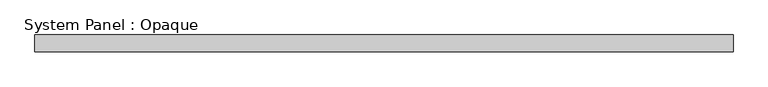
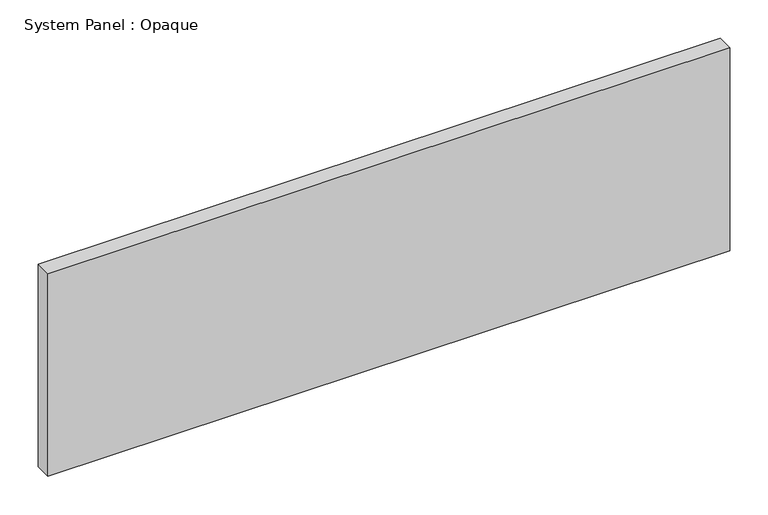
"""IFC4 building model written with IfcOpenShell, lengths in millimetres: plate geometry, System Panel : Opaque."""

from ifc_helpers import new_model, si_unit, origin, origin_with_axes, place, context, project, spatial, polyline, outline, extrude, source, transform, mapped, element, save


def system_panel_opaque_81517e9a(model_context):
    return source(origin(), model_context, "Body", "SweptSolid", [
        extrude(outline(polyline([(516.726465, -12.5), (-516.726465, -12.5), (-516.726465, 12.5), (516.726465, 12.5), (516.726465, -12.5)])), origin_with_axes(), (0.0, 0.0, 1.0), 325.0),
    ])


if __name__ == "__main__":
    model = new_model("IFC4")
    model_context = context("Model", 3, world=origin())
    ifc_project = project(units=[si_unit("LENGTHUNIT", "METRE", prefix="MILLI")], contexts=[model_context])
    site = spatial("IfcSite", under=ifc_project)
    building = spatial("IfcBuilding", under=site)
    placement = place(None, origin())
    system_panel_opaque_shape = system_panel_opaque_81517e9a(model_context)
    element("IfcPlate", 1, ObjectType="System Panel : Opaque", at=placement, inside=building, context=model_context, shape_type="MappedRepresentation", body=[
        mapped(system_panel_opaque_shape, transform((0.0, 0.0, 0.0), x_axis=(1.0, 0.0, 0.0), y_axis=(0.0, 1.0, 0.0), z_axis=(0.0, 0.0, 1.0))),
    ])
    save(model, "model.ifc")
